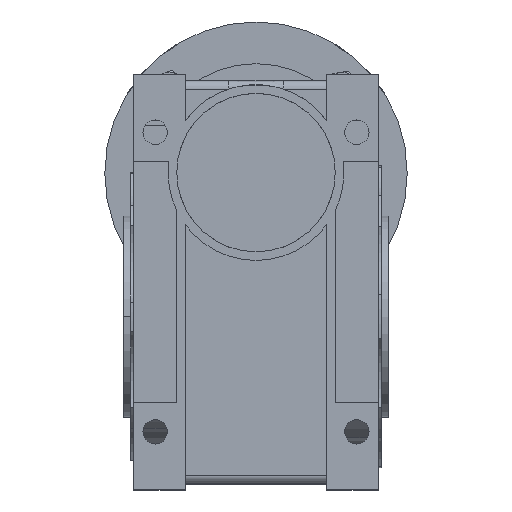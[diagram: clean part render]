
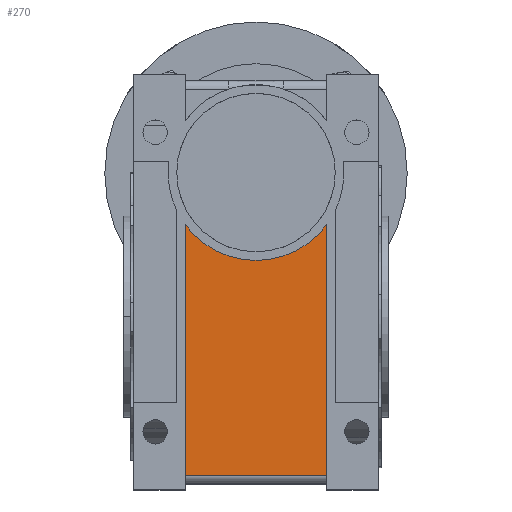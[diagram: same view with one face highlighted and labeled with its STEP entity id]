
A CAD part, top view. The second image highlights one B-rep face of the part: STEP entity #270.
In plain terms, the highlighted planar face has unit normal (0, 0, 1).
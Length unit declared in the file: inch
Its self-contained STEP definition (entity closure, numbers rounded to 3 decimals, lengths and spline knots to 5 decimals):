
#258 = EDGE_LOOP ( 'NONE', ( #1915, #1911, #1874, #1864, #1857 ) ) ;
#270 = ADVANCED_FACE ( 'NONE', ( #16128 ), #16127, .T. ) ;
#435 = VERTEX_POINT ( 'NONE', #16557 ) ;
#474 = VERTEX_POINT ( 'NONE', #16616 ) ;
#1857 = ORIENTED_EDGE ( 'NONE', *, *, #10507, .F. ) ;
#1860 = VERTEX_POINT ( 'NONE', #12739 ) ;
#1861 = EDGE_CURVE ( 'NONE', #474, #1860, #12737, .T. ) ;
#1862 = EDGE_CURVE ( 'NONE', #1860, #1898, #12738, .T. ) ;
#1864 = ORIENTED_EDGE ( 'NONE', *, *, #1861, .F. ) ;
#1874 = ORIENTED_EDGE ( 'NONE', *, *, #1862, .F. ) ;
#1898 = VERTEX_POINT ( 'NONE', #12809 ) ;
#1905 = VERTEX_POINT ( 'NONE', #12852 ) ;
#1910 = EDGE_CURVE ( 'NONE', #1905, #1898, #12847, .T. ) ;
#1911 = ORIENTED_EDGE ( 'NONE', *, *, #1910, .T. ) ;
#1915 = ORIENTED_EDGE ( 'NONE', *, *, #1917, .F. ) ;
#1917 = EDGE_CURVE ( 'NONE', #1905, #435, #12836, .T. ) ;
#3732 = DIRECTION ( 'NONE',  ( 1., 0., 0. ) ) ;
#3733 = DIRECTION ( 'NONE',  ( 0., 0., 1. ) ) ;
#3734 = CARTESIAN_POINT ( 'NONE',  ( 0., 0., 4.6944 ) ) ;
#3735 = AXIS2_PLACEMENT_3D ( 'NONE', #3734, #3733, #3732 ) ;
#3736 = CIRCLE ( 'NONE', #3735, 1.20079 ) ;
#10507 = EDGE_CURVE ( 'NONE', #435, #474, #3736, .T. ) ;
#12730 = DIRECTION ( 'NONE',  ( 0., -1., 0. ) ) ;
#12731 = VECTOR ( 'NONE', #12730, 39.37008 ) ;
#12732 = CARTESIAN_POINT ( 'NONE',  ( 0.96457, -0.71519, 4.6944 ) ) ;
#12733 = DIRECTION ( 'NONE',  ( 1., 0., 0. ) ) ;
#12734 = DIRECTION ( 'NONE',  ( 0., 0., 1. ) ) ;
#12735 = CARTESIAN_POINT ( 'NONE',  ( 0., 0., 4.6944 ) ) ;
#12736 = AXIS2_PLACEMENT_3D ( 'NONE', #12735, #12734, #12733 ) ;
#12737 = CIRCLE ( 'NONE', #12736, 1.20079 ) ;
#12738 = LINE ( 'NONE', #12732, #12731 ) ;
#12739 = CARTESIAN_POINT ( 'NONE',  ( 0.96457, -0.71519, 4.6944 ) ) ;
#12809 = CARTESIAN_POINT ( 'NONE',  ( 0.96457, -4.13386, 4.6944 ) ) ;
#12833 = DIRECTION ( 'NONE',  ( 0., 1., 0. ) ) ;
#12834 = VECTOR ( 'NONE', #12833, 39.37008 ) ;
#12835 = CARTESIAN_POINT ( 'NONE',  ( -0.96457, -4.25197, 4.6944 ) ) ;
#12836 = LINE ( 'NONE', #12835, #12834 ) ;
#12844 = DIRECTION ( 'NONE',  ( 1., 0., 0. ) ) ;
#12845 = VECTOR ( 'NONE', #12844, 39.37008 ) ;
#12846 = CARTESIAN_POINT ( 'NONE',  ( 0.96457, -4.13386, 4.6944 ) ) ;
#12847 = LINE ( 'NONE', #12846, #12845 ) ;
#12852 = CARTESIAN_POINT ( 'NONE',  ( -0.96457, -4.13386, 4.6944 ) ) ;
#16123 = DIRECTION ( 'NONE',  ( 0., -1., 0. ) ) ;
#16124 = DIRECTION ( 'NONE',  ( 0., 0., 1. ) ) ;
#16125 = CARTESIAN_POINT ( 'NONE',  ( 0., 0., 4.6944 ) ) ;
#16126 = AXIS2_PLACEMENT_3D ( 'NONE', #16125, #16124, #16123 ) ;
#16127 = PLANE ( 'NONE',  #16126 ) ;
#16128 = FACE_OUTER_BOUND ( 'NONE', #258, .T. ) ;
#16557 = CARTESIAN_POINT ( 'NONE',  ( -0.96457, -0.71519, 4.6944 ) ) ;
#16616 = CARTESIAN_POINT ( 'NONE',  ( 0., -1.20079, 4.6944 ) ) ;
